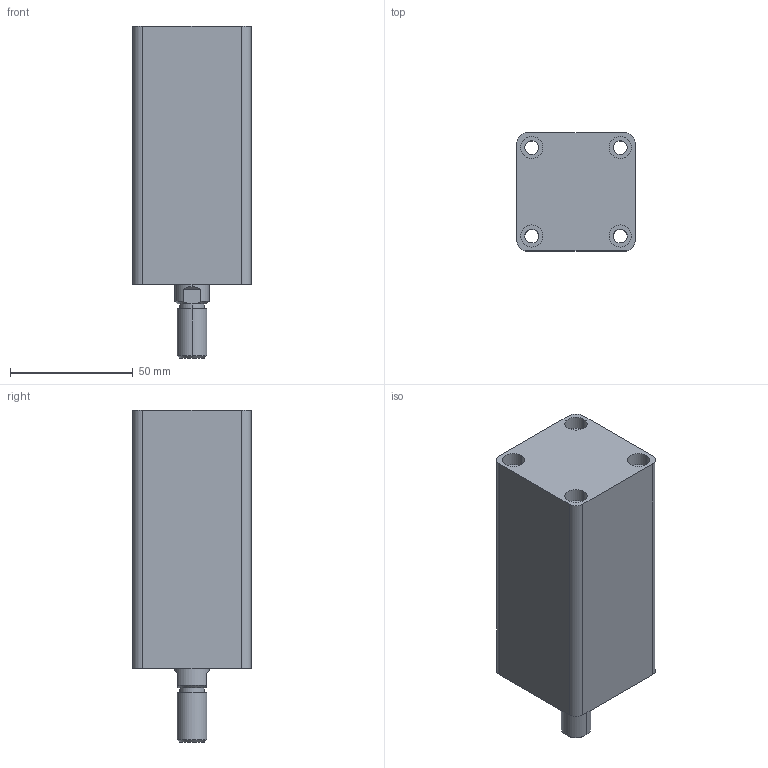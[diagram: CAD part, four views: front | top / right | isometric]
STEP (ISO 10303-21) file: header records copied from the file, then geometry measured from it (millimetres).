
FILE_DESCRIPTION (( 'STEP AP203' ), '1' );
FILE_NAME ('HTB-SD25-60W.STEP', '2019-10-07T06:14:52', ( '微软用户' ), ( '微软中国' ), 'SwSTEP 2.0', 'SolidWorks 2012', '' );
FILE_SCHEMA (( 'CONFIG_CONTROL_DESIGN' ));
Length unit declared in the file: millimetre
Products named in the file (3): HTB-SD25-60掛极; HTB-SD25-60W活塞杆; HTB-SD25-60W
Assembly tree (2 placements, depth 2):
  HTB-SD25-60W
    HTB-SD25-60掛极
    HTB-SD25-60W活塞杆
Bounding box: 48 x 48 x 135 mm (x, y, z)
Volume: 210751.5 mm3; surface area: 46583.6 mm2
Topology: 2 solids, 2 shells, 87 faces, 188 edges, 122 vertices
Faces by surface type: cylinder 44, plane 29, cone 8, torus 6
Entity records: 2759 total; most frequent: DIRECTION 476, CARTESIAN_POINT 446, ORIENTED_EDGE 376, AXIS2_PLACEMENT_3D 204, EDGE_CURVE 188, VERTEX_POINT 122, CIRCLE 112, EDGE_LOOP 112
